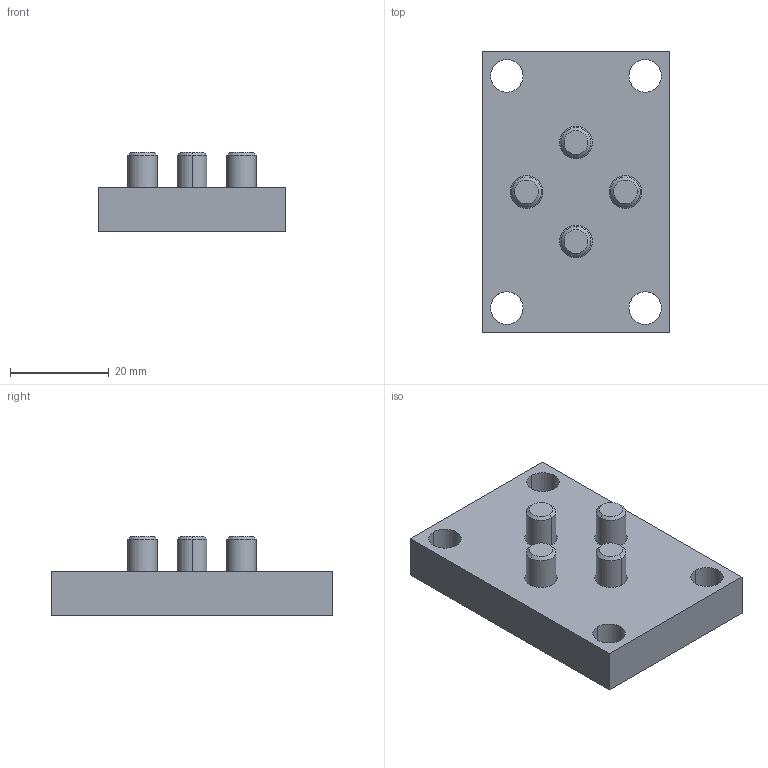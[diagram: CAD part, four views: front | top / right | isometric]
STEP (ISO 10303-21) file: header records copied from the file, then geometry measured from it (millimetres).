
FILE_DESCRIPTION(/* description */ (''),/* implementation_level */ '2;1');
FILE_NAME(/* name */ '3d_am-38_03183_r00.stp',/* time_stamp */ '2011-01-10T14:17:47+09:00',/* author */ ('MISUMI'),/* organization */ (''),/* preprocessor_version */ 'ST-DEVELOPER v11',/* originating_system */ 'UGS - NX 5.0',/* authorisation */ '');
FILE_SCHEMA (('CONFIG_CONTROL_DESIGN'));
Length unit declared in the file: millimetre
Products named in the file (1): 3d_am-38_03183_r00
Bounding box: 38 x 57 x 16 mm (x, y, z)
Volume: 18729 mm3; surface area: 9057.7 mm2
Topology: 5 solids, 5 shells, 90 faces, 204 edges, 128 vertices
Faces by surface type: plane 42, cylinder 24, cone 24
Entity records: 2618 total; most frequent: DIRECTION 458, CARTESIAN_POINT 423, ORIENTED_EDGE 408, EDGE_CURVE 204, AXIS2_PLACEMENT_3D 163, LINE 132, VECTOR 132, VERTEX_POINT 128
